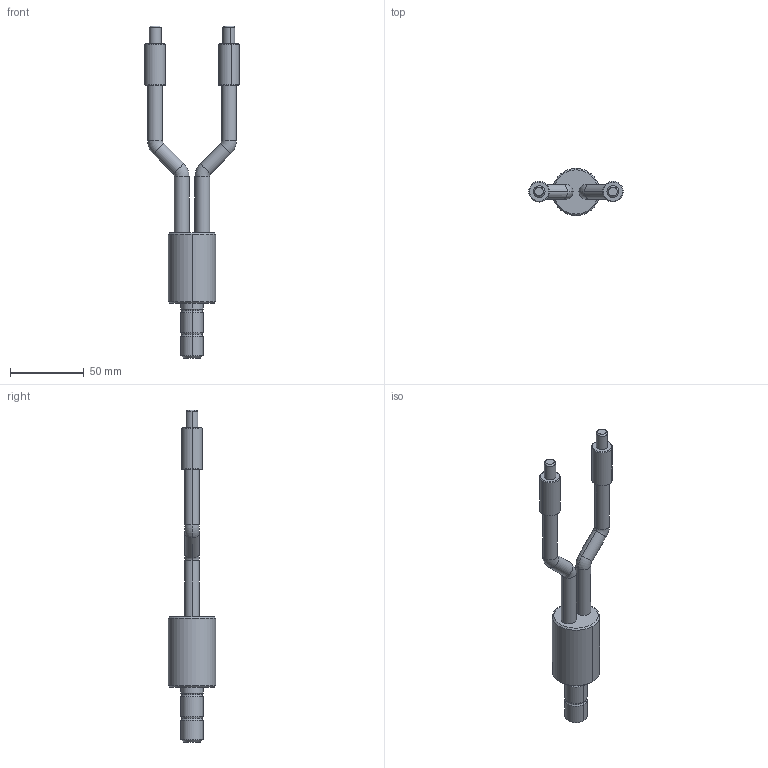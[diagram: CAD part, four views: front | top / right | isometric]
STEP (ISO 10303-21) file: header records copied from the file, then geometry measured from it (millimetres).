
FILE_DESCRIPTION (( 'STEP AP203' ), '1' );
FILE_NAME ('MWG-1000S_A06019A0100101A-001.STEP', '2014-09-16T06:38:26', ( '' ), ( '' ), 'SwSTEP 2.0', 'SolidWorks 2011', '' );
FILE_SCHEMA (( 'CONFIG_CONTROL_DESIGN' ));
Length unit declared in the file: millimetre
Products named in the file (1): MWG-1000S_A06019A0100101A-001
Bounding box: 63.99 x 32 x 225 mm (x, y, z)
Volume: 71445.6 mm3; surface area: 18043.7 mm2
Topology: 1 solids, 1 shells, 75 faces, 151 edges, 85 vertices
Faces by surface type: cylinder 29, cone 18, torus 16, plane 10, sphere 2
Entity records: 2074 total; most frequent: DIRECTION 397, CARTESIAN_POINT 370, ORIENTED_EDGE 302, AXIS2_PLACEMENT_3D 174, EDGE_CURVE 151, CIRCLE 98, VERTEX_POINT 85, EDGE_LOOP 82
